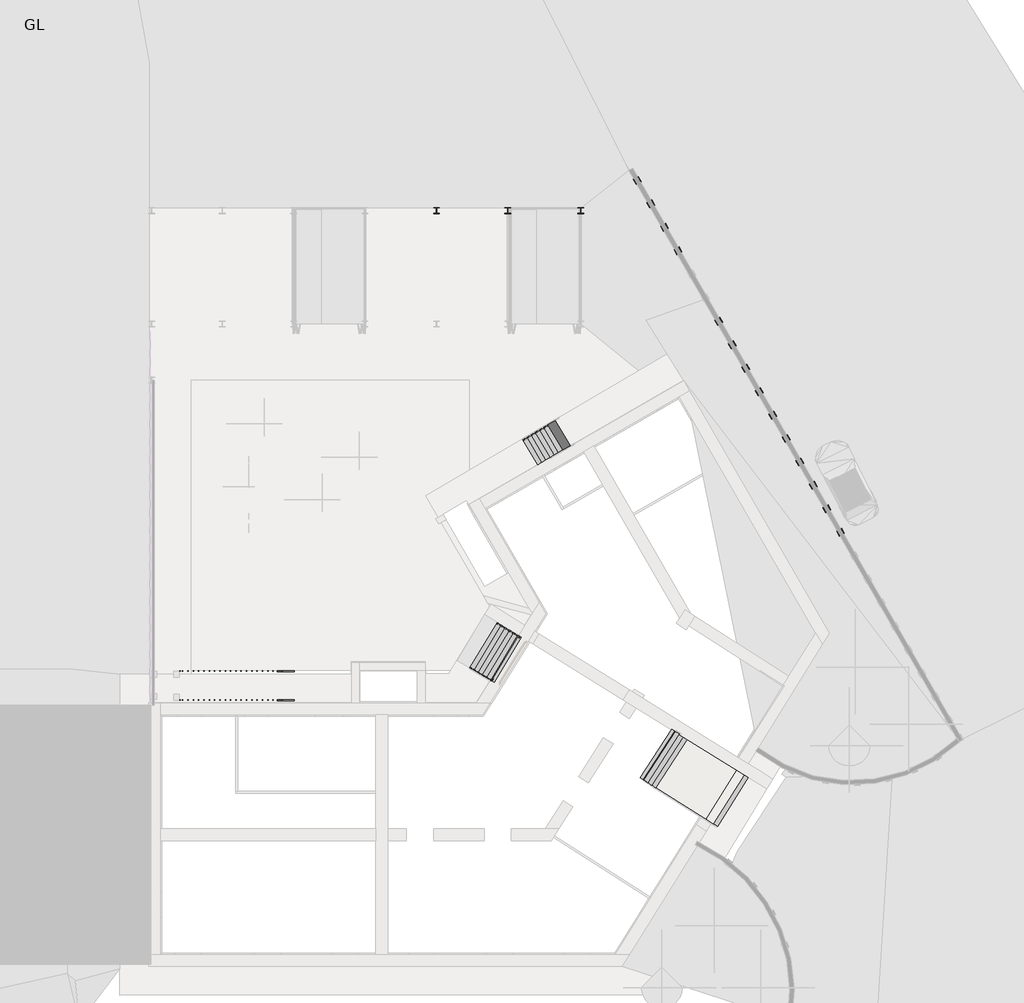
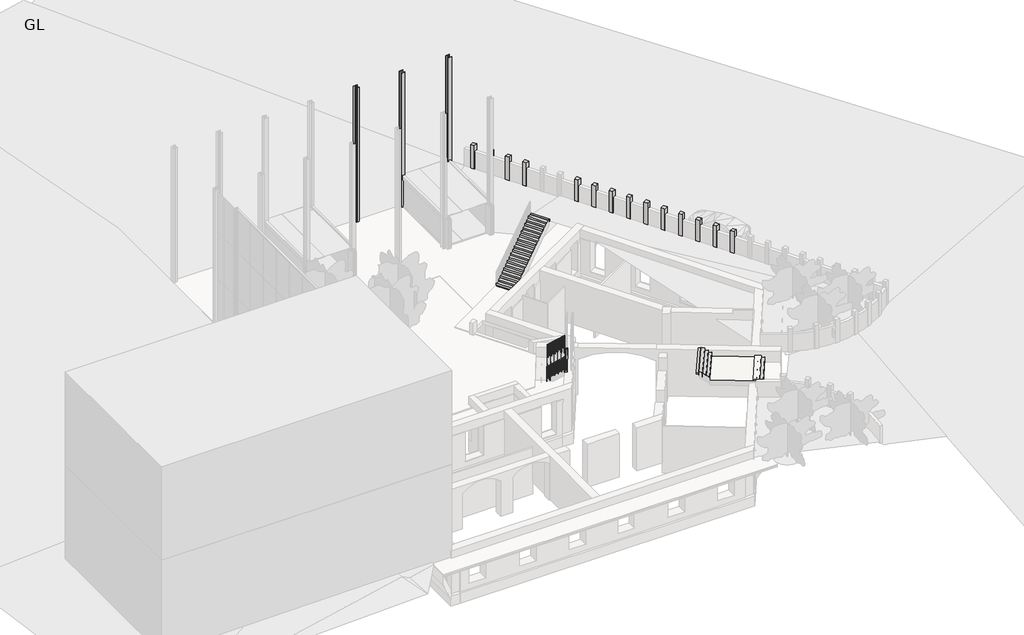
# One storey, part 5 of 6: 17 columns, 4 railings, 4 stair flights, 1 slab.
"""IFC4 building model written with IfcOpenShell, lengths in millimetres."""

from ifc_helpers import new_model, si_unit, frame, origin, origin_with_axes, place, context, project, spatial, polyline, outline, extrude, transform, mapped, element, save
from components import uc_universal_columns_column_uc305x305x97_f7e977a0, slab_75dce6ce, wood_steps_w_50mm_tread_10mm_nosing_13mm_riser_463dac38, wood_steps_w_50mm_tread_10mm_nosing_13mm_riser_c46edbeb, wood_steps_w_50mm_tread_10mm_nosing_13mm_riser_4d9a7b32, wood_steps_w_50mm_tread_10mm_nosing_13mm_riser_9b9480e7

model = new_model("IFC4")

# Units and contexts
model_context = context("Model", 3, world=origin())
ifc_project = project(units=[si_unit("LENGTHUNIT", "METRE", prefix="MILLI")], contexts=[model_context])

# Site, building, storey
site = spatial("IfcSite", under=ifc_project)
building = spatial("IfcBuilding", under=site)
storey = spatial("IfcBuildingStorey", under=building, Name="GL", Elevation=0.0)

# Columns
placement = place(None, origin())
element("IfcColumn", 1, ObjectType="M_Concrete-Square-Column : 300 x 300mm", at=placement, inside=storey, context=model_context, shape_type="SweptSolid", body=[
    extrude(outline(polyline([(13988.4315293, 33174.645581), (14138.3954047, 32914.8171066), (13878.5669304, 32764.8532312), (13728.6030549, 33024.6817055), (13988.4315293, 33174.645581)])), origin_with_axes(), (0.0, 0.0, 1.0), 2000.0),
])
element("IfcColumn", 2, ObjectType="M_Concrete-Square-Column : 300 x 300mm", at=placement, inside=storey, context=model_context, shape_type="SweptSolid", body=[
    extrude(outline(polyline([(13288.4315293, 34387.0811463), (13438.3954047, 34127.2526719), (13178.5669304, 33977.2887965), (13028.6030549, 34237.1172708), (13288.4315293, 34387.0811463)])), origin_with_axes(), (0.0, 0.0, 1.0), 2000.0),
])
element("IfcColumn", 3, ObjectType="M_Concrete-Square-Column : 300 x 300mm", at=placement, inside=storey, context=model_context, shape_type="SweptSolid", body=[
    extrude(outline(polyline([(12588.4315293, 35599.5167116), (12738.3954047, 35339.6882372), (12478.5669304, 35189.7243618), (12328.6030549, 35449.5528361), (12588.4315293, 35599.5167116)])), origin_with_axes(), (0.0, 0.0, 1.0), 2000.0),
])
element("IfcColumn", 4, ObjectType="M_Concrete-Square-Column : 300 x 300mm", at=placement, inside=storey, context=model_context, shape_type="SweptSolid", body=[
    extrude(outline(polyline([(11888.6001106, 36812.0495917), (12038.563986, 36552.2211174), (11778.7355117, 36402.257242), (11628.7716363, 36662.0857163), (11888.6001106, 36812.0495917)])), origin_with_axes(), (0.0, 0.0, 1.0), 2000.0),
])
element("IfcColumn", 5, ObjectType="M_Concrete-Square-Column : 300 x 300mm", at=placement, inside=storey, context=model_context, shape_type="SweptSolid", body=[
    extrude(outline(polyline([(18188.2629479, 25899.9348743), (18338.2268233, 25640.1064), (18078.398349, 25490.1425246), (17928.4344736, 25749.9709989), (18188.2629479, 25899.9348743)])), origin_with_axes(), (0.0, 0.0, 1.0), 2000.0),
])
element("IfcColumn", 6, ObjectType="M_Concrete-Square-Column : 300 x 300mm", at=placement, inside=storey, context=model_context, shape_type="SweptSolid", body=[
    extrude(outline(polyline([(17488.4315293, 27112.4677545), (17638.3954047, 26852.6392802), (17378.5669304, 26702.6754047), (17228.6030549, 26962.5038791), (17488.4315293, 27112.4677545)])), origin_with_axes(), (0.0, 0.0, 1.0), 2000.0),
])
element("IfcColumn", 7, ObjectType="M_Concrete-Square-Column : 300 x 300mm", at=placement, inside=storey, context=model_context, shape_type="SweptSolid", body=[
    extrude(outline(polyline([(16788.4315293, 28324.9033198), (16938.3954047, 28065.0748454), (16678.5669304, 27915.11097), (16528.6030549, 28174.9394444), (16788.4315293, 28324.9033198)])), origin_with_axes(), (0.0, 0.0, 1.0), 2000.0),
])
element("IfcColumn", 8, ObjectType="M_Concrete-Square-Column : 300 x 300mm", at=placement, inside=storey, context=model_context, shape_type="SweptSolid", body=[
    extrude(outline(polyline([(16088.4315293, 29537.3388851), (16238.3954047, 29277.5104107), (15978.5669304, 29127.5465353), (15828.6030549, 29387.3750096), (16088.4315293, 29537.3388851)])), origin_with_axes(), (0.0, 0.0, 1.0), 2000.0),
])
element("IfcColumn", 9, ObjectType="M_Concrete-Square-Column : 300 x 300mm", at=placement, inside=storey, context=model_context, shape_type="SweptSolid", body=[
    extrude(outline(polyline([(21686.5771342, 19836.7838991), (21836.5410096, 19576.9554247), (21576.7125353, 19426.9915493), (21426.7486599, 19686.8200236), (21686.5771342, 19836.7838991)])), origin_with_axes(), (0.0, 0.0, 1.0), 2000.0),
])
element("IfcColumn", 10, ObjectType="M_Concrete-Square-Column : 300 x 300mm", at=placement, inside=storey, context=model_context, shape_type="SweptSolid", body=[
    extrude(outline(polyline([(20986.7457156, 21049.3167792), (21136.709591, 20789.4883049), (20876.8811166, 20639.5244295), (20726.9172412, 20899.3529038), (20986.7457156, 21049.3167792)])), origin_with_axes(), (0.0, 0.0, 1.0), 2000.0),
])
element("IfcColumn", 11, ObjectType="M_Concrete-Square-Column : 300 x 300mm", at=placement, inside=storey, context=model_context, shape_type="SweptSolid", body=[
    extrude(outline(polyline([(20286.7457156, 22261.7523445), (20436.709591, 22001.9238702), (20176.8811166, 21851.9599948), (20026.9172412, 22111.7884691), (20286.7457156, 22261.7523445)])), origin_with_axes(), (0.0, 0.0, 1.0), 2000.0),
])
element("IfcColumn", 12, ObjectType="M_Concrete-Square-Column : 300 x 300mm", at=placement, inside=storey, context=model_context, shape_type="SweptSolid", body=[
    extrude(outline(polyline([(19586.7457156, 23474.1879098), (19736.709591, 23214.3594355), (19476.8811166, 23064.3955601), (19326.9172412, 23324.2240344), (19586.7457156, 23474.1879098)])), origin_with_axes(), (0.0, 0.0, 1.0), 2000.0),
])
element("IfcColumn", 13, ObjectType="M_Concrete-Square-Column : 300 x 300mm", at=placement, inside=storey, context=model_context, shape_type="SweptSolid", body=[
    extrude(outline(polyline([(18886.9142969, 24686.72079), (19036.8781723, 24426.8923157), (18777.049698, 24276.9284403), (18627.0858226, 24536.7569146), (18886.9142969, 24686.72079)])), origin_with_axes(), (0.0, 0.0, 1.0), 2000.0),
])
element("IfcColumn", 14, ObjectType="M_Concrete-Square-Column : 300 x 300mm", at=placement, inside=storey, context=model_context, shape_type="SweptSolid", body=[
    extrude(outline(polyline([(22386.9142969, 18624.5429635), (22536.8781723, 18364.7144892), (22277.049698, 18214.7506138), (22127.0858226, 18474.5790881), (22386.9142969, 18624.5429635)])), origin_with_axes(), (0.0, 0.0, 1.0), 2000.0),
])
uc_universal_columns_column_uc305x305x97_shape = uc_universal_columns_column_uc305x305x97_f7e977a0(model_context)
element("IfcColumn", 15, ObjectType="UC-Universal Columns-Column : UC305x305x97", at=placement, inside=storey, context=model_context, shape_type="MappedRepresentation", body=[
    mapped(uc_universal_columns_column_uc305x305x97_shape, transform((1448.4037035, 35051.9809735, 0.0), x_axis=(1.0, 0.0, 0.0), y_axis=(0.0, 1.0, 0.0), z_axis=(0.0, 0.0, 1.0))),
])
element("IfcColumn", 16, ObjectType="UC-Universal Columns-Column : UC305x305x97", at=placement, inside=storey, context=model_context, shape_type="MappedRepresentation", body=[
    mapped(uc_universal_columns_column_uc305x305x97_shape, transform((5139.3879332, 35051.9809735, 0.0), x_axis=(1.0, 0.0, 0.0), y_axis=(0.0, 1.0, 0.0), z_axis=(0.0, 0.0, 1.0))),
])
element("IfcColumn", 17, ObjectType="UC-Universal Columns-Column : UC305x305x97", at=placement, inside=storey, context=model_context, shape_type="MappedRepresentation", body=[
    mapped(uc_universal_columns_column_uc305x305x97_shape, transform((8901.9425222, 35051.9809735, 0.0), x_axis=(1.0, 0.0, 0.0), y_axis=(0.0, 1.0, 0.0), z_axis=(0.0, 0.0, 1.0))),
])

# Railings
element("IfcRailing", 18, ObjectType="1100mm", at=placement, inside=storey, context=model_context, shape_type="SweptSolid", body=[
    extrude(outline(polyline([(33.3333334, -50.0), (0.0, 0.0), (1502.3130314, 0.0), (1535.6463648, -50.0), (33.3333334, -50.0)])), frame((3181.7355207, 11411.1099524, 1206.5741454), z_axis=(0.5150380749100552, 0.8571673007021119, 0.0), x_axis=(0.7132063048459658, -0.42853758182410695, 0.5547001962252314)), (0.0, 0.0, 1.0), 50.0),
    extrude(outline(polyline([(108.3333334, 0.0), (1264.9074788, 0.0), (1264.9074788, -25.0000001), (91.6666667, -25.0000001), (108.3333334, 0.0)])), frame((4195.3450749, 10816.6548057, 2098.2408121), z_axis=(0.5150380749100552, 0.8571673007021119, 0.0), x_axis=(0.0, 0.0, -1.0)), (0.0, 0.0, 1.0), 25.0),
    extrude(outline(polyline([(108.3333333, 0.0), (1181.5741454, 0.0), (1181.5741454, -25.0), (91.6666666, -25.0), (108.3333333, 0.0)])), frame((4088.1991624, 10881.034565, 2014.9074787), z_axis=(0.5150380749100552, 0.8571673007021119, 0.0), x_axis=(0.0, 0.0, -1.0)), (0.0, 0.0, 1.0), 25.0),
    extrude(outline(polyline([(108.3333333, 0.0), (1264.9074787, 0.0), (1264.9074787, -25.0), (91.6666667, -25.0), (108.3333333, 0.0)])), frame((3981.0532498, 10945.4143244, 1931.5741454), z_axis=(0.5150380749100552, 0.8571673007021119, 0.0), x_axis=(0.0, 0.0, -1.0)), (0.0, 0.0, 1.0), 25.0),
    extrude(outline(polyline([(108.3333334, 0.0), (1181.5741454, 0.0), (1181.5741454, -24.9999999), (91.6666667, -24.9999999), (108.3333334, 0.0)])), frame((3873.9073372, 11009.7940837, 1848.2408121), z_axis=(0.5150380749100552, 0.8571673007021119, 0.0), x_axis=(0.0, 0.0, -1.0)), (0.0, 0.0, 1.0), 25.0),
    extrude(outline(polyline([(108.3333333, 0.0), (1264.9074787, 0.0), (1264.9074787, -25.0), (91.6666666, -25.0), (108.3333333, 0.0)])), frame((3766.7614246, 11074.1738431, 1764.9074787), z_axis=(0.5150380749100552, 0.8571673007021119, 0.0), x_axis=(0.0, 0.0, -1.0)), (0.0, 0.0, 1.0), 25.0),
    extrude(outline(polyline([(108.3333333, 0.0), (1181.5741454, 0.0), (1181.5741454, -25.0), (91.6666667, -25.0), (108.3333333, 0.0)])), frame((3659.615512, 11138.5536025, 1681.5741454), z_axis=(0.5150380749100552, 0.8571673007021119, 0.0), x_axis=(0.0, 0.0, -1.0)), (0.0, 0.0, 1.0), 25.0),
    extrude(outline(polyline([(108.3333334, 0.0), (1264.9074788, 0.0), (1264.9074788, -24.9999999), (91.6666667, -24.9999999), (108.3333334, 0.0)])), frame((3552.4695994, 11202.9333618, 1598.2408121), z_axis=(0.5150380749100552, 0.8571673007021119, 0.0), x_axis=(0.0, 0.0, -1.0)), (0.0, 0.0, 1.0), 25.0),
    extrude(outline(polyline([(108.3333333, 0.0), (1181.5741454, 0.0), (1181.5741454, -25.0), (91.6666666, -25.0), (108.3333333, 0.0)])), frame((3445.3236868, 11267.3131212, 1514.9074787), z_axis=(0.5150380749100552, 0.8571673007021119, 0.0), x_axis=(0.0, 0.0, -1.0)), (0.0, 0.0, 1.0), 25.0),
    extrude(outline(polyline([(108.3333333, 0.0), (1264.9074787, 0.0), (1264.9074787, -25.0000001), (91.6666667, -25.0000001), (108.3333333, 0.0)])), frame((3338.1777742, 11331.6928806, 1431.5741454), z_axis=(0.5150380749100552, 0.8571673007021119, 0.0), x_axis=(0.0, 0.0, -1.0)), (0.0, 0.0, 1.0), 25.0),
    extrude(outline(polyline([(108.3333334, 0.0), (1181.5741454, 0.0), (1181.5741454, -24.9999999), (91.6666667, -24.9999999), (108.3333334, 0.0)])), frame((3231.0318617, 11396.0726399, 1348.2408121), z_axis=(0.5150380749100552, 0.8571673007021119, 0.0), x_axis=(0.0, 0.0, -1.0)), (0.0, 0.0, 1.0), 25.0),
    extrude(outline(polyline([(108.3333333, 0.0), (1298.2408121, 0.0), (1298.2408121, -25.0), (91.6666667, -25.0), (108.3333333, 0.0)])), frame((4238.20344, 10790.9029019, 2131.5741454), z_axis=(0.5150380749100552, 0.8571673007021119, 0.0), x_axis=(0.0, 0.0, -1.0)), (0.0, 0.0, 1.0), 25.0),
    extrude(outline(polyline([(108.3333333, 0.0), (1148.240812, 0.0), (1148.240812, -25.0), (91.6666666, -25.0), (108.3333333, 0.0)])), frame((3188.1734966, 11421.8245437, 1314.9074787), z_axis=(0.5150380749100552, 0.8571673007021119, 0.0), x_axis=(0.0, 0.0, -1.0)), (0.0, 0.0, 1.0), 25.0),
])
element("IfcRailing", 19, ObjectType="1100mm", at=placement, inside=storey, context=model_context, shape_type="SweptSolid", body=[
    extrude(outline(polyline([(33.3333334, -50.0), (0.0, 0.0), (1502.3130314, 0.0), (1535.6463648, -50.0), (33.3333334, -50.0)])), frame((4554.6213153, 13695.975612, 1206.5741454), z_axis=(0.5150380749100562, 0.8571673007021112, 0.0), x_axis=(0.7132063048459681, -0.4285375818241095, 0.5547001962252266)), (0.0, 0.0, 1.0), 50.0),
    extrude(outline(polyline([(1264.9074788, 25.0), (1264.9074788, 0.0), (91.6666667, 0.0), (108.3333334, 25.0), (1264.9074788, 25.0)])), frame((5589.660052, 13088.6445133, 2098.2408121), z_axis=(0.5150380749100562, 0.8571673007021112, 0.0), x_axis=(0.0, 0.0, -1.0)), (0.0, 0.0, 1.0), 25.0),
    extrude(outline(polyline([(1181.5741454, 25.0000001), (1181.5741454, 0.0), (91.6666666, 0.0), (108.3333333, 25.0000001), (1181.5741454, 25.0000001)])), frame((5482.5141395, 13153.0242727, 2014.9074787), z_axis=(0.5150380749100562, 0.8571673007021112, 0.0), x_axis=(0.0, 0.0, -1.0)), (0.0, 0.0, 1.0), 25.0),
    extrude(outline(polyline([(1264.9074787, 25.0000001), (1264.9074787, 0.0), (91.6666667, 0.0), (108.3333333, 25.0000001), (1264.9074787, 25.0000001)])), frame((5375.3682269, 13217.404032, 1931.5741454), z_axis=(0.5150380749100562, 0.8571673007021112, 0.0), x_axis=(0.0, 0.0, -1.0)), (0.0, 0.0, 1.0), 25.0),
    extrude(outline(polyline([(1181.5741454, 25.0), (1181.5741454, 0.0), (91.6666667, 0.0), (108.3333334, 25.0), (1181.5741454, 25.0)])), frame((5268.2223143, 13281.7837914, 1848.2408121), z_axis=(0.5150380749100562, 0.8571673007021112, 0.0), x_axis=(0.0, 0.0, -1.0)), (0.0, 0.0, 1.0), 25.0),
    extrude(outline(polyline([(1264.9074787, 24.9999999), (1264.9074787, 0.0), (91.6666666, 0.0), (108.3333333, 24.9999999), (1264.9074787, 24.9999999)])), frame((5161.0764017, 13346.1635508, 1764.9074787), z_axis=(0.5150380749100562, 0.8571673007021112, 0.0), x_axis=(0.0, 0.0, -1.0)), (0.0, 0.0, 1.0), 25.0),
    extrude(outline(polyline([(1181.5741454, 25.0), (1181.5741454, 0.0), (91.6666667, 0.0), (108.3333333, 25.0), (1181.5741454, 25.0)])), frame((5053.9304891, 13410.5433101, 1681.5741454), z_axis=(0.5150380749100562, 0.8571673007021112, 0.0), x_axis=(0.0, 0.0, -1.0)), (0.0, 0.0, 1.0), 25.0),
    extrude(outline(polyline([(1264.9074788, 25.0), (1264.9074788, 0.0), (91.6666667, 0.0), (108.3333334, 25.0), (1264.9074788, 25.0)])), frame((4946.7845765, 13474.9230695, 1598.2408121), z_axis=(0.5150380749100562, 0.8571673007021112, 0.0), x_axis=(0.0, 0.0, -1.0)), (0.0, 0.0, 1.0), 25.0),
    extrude(outline(polyline([(1181.5741454, 24.9999999), (1181.5741454, 0.0), (91.6666666, 0.0), (108.3333333, 24.9999999), (1181.5741454, 24.9999999)])), frame((4839.6386639, 13539.3028289, 1514.9074787), z_axis=(0.5150380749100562, 0.8571673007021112, 0.0), x_axis=(0.0, 0.0, -1.0)), (0.0, 0.0, 1.0), 25.0),
    extrude(outline(polyline([(1264.9074787, 25.0), (1264.9074787, 0.0), (91.6666667, 0.0), (108.3333333, 25.0), (1264.9074787, 25.0)])), frame((4732.4927513, 13603.6825882, 1431.5741454), z_axis=(0.5150380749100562, 0.8571673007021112, 0.0), x_axis=(0.0, 0.0, -1.0)), (0.0, 0.0, 1.0), 25.0),
    extrude(outline(polyline([(1181.5741454, 25.0000001), (1181.5741454, 0.0), (91.6666667, 0.0), (108.3333334, 25.0000001), (1181.5741454, 25.0000001)])), frame((4625.3468388, 13668.0623476, 1348.2408121), z_axis=(0.5150380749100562, 0.8571673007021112, 0.0), x_axis=(0.0, 0.0, -1.0)), (0.0, 0.0, 1.0), 25.0),
    extrude(outline(polyline([(1298.2408121, 24.9999999), (1298.2408121, 0.0), (91.6666667, 0.0), (108.3333333, 24.9999999), (1298.2408121, 24.9999999)])), frame((5632.5184171, 13062.8926096, 2131.5741454), z_axis=(0.5150380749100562, 0.8571673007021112, 0.0), x_axis=(0.0, 0.0, -1.0)), (0.0, 0.0, 1.0), 25.0),
    extrude(outline(polyline([(1148.240812, 25.0), (1148.240812, 0.0), (91.6666666, 0.0), (108.3333333, 25.0), (1148.240812, 25.0)])), frame((4582.4884737, 13693.8142513, 1314.9074787), z_axis=(0.5150380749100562, 0.8571673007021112, 0.0), x_axis=(0.0, 0.0, -1.0)), (0.0, 0.0, 1.0), 25.0),
])
element("IfcRailing", 20, ObjectType="1100mm", at=placement, inside=storey, context=model_context, shape_type="SweptSolid", body=[
    extrude(outline(polyline([(1049.2960469, -5893.2131888), (1100.0, -5893.2131888), (2100.0, -11831.6874983), (2049.2960469, -11831.6874983), (1049.2960469, -5893.2131888)])), frame((0.0, 11222.200745, 0.0), z_axis=(0.0, 1.0, 0.0), x_axis=(0.0, 0.0, 1.0)), (0.0, 0.0, 1.0), 50.0),
    extrude(outline(polyline([(2019.8138059, -11655.7131888), (2023.8410269, -11680.7131888), (972.4720019, -11680.7131888), (972.4720019, -11655.7131888), (2019.8138059, -11655.7131888)])), frame((0.0, 11234.700745, 0.0), z_axis=(0.0, 1.0, 0.0), x_axis=(0.0, 0.0, 1.0)), (0.0, 0.0, 1.0), 25.0),
    extrude(outline(polyline([(1973.5056154, -11380.7131888), (1977.5328364, -11405.7131888), (926.1638113, -11405.7131888), (926.1638113, -11380.7131888), (1973.5056154, -11380.7131888)])), frame((0.0, 11234.700745, 0.0), z_axis=(0.0, 1.0, 0.0), x_axis=(0.0, 0.0, 1.0)), (0.0, 0.0, 1.0), 25.0),
    extrude(outline(polyline([(1927.1974248, -11105.7131888), (1931.2246458, -11130.7131888), (879.8556208, -11130.7131888), (879.8556208, -11105.7131888), (1927.1974248, -11105.7131888)])), frame((0.0, 11234.700745, 0.0), z_axis=(0.0, 1.0, 0.0), x_axis=(0.0, 0.0, 1.0)), (0.0, 0.0, 1.0), 25.0),
    extrude(outline(polyline([(1880.8892342, -10830.7131888), (1884.9164552, -10855.7131888), (833.5474302, -10855.7131888), (833.5474302, -10830.7131888), (1880.8892342, -10830.7131888)])), frame((0.0, 11234.700745, 0.0), z_axis=(0.0, 1.0, 0.0), x_axis=(0.0, 0.0, 1.0)), (0.0, 0.0, 1.0), 25.0),
    extrude(outline(polyline([(1834.5810437, -10555.7131888), (1838.6082647, -10580.7131888), (787.2392396, -10580.7131888), (787.2392396, -10555.7131888), (1834.5810437, -10555.7131888)])), frame((0.0, 11234.700745, 0.0), z_axis=(0.0, 1.0, 0.0), x_axis=(0.0, 0.0, 1.0)), (0.0, 0.0, 1.0), 25.0),
    extrude(outline(polyline([(1788.2728531, -10280.7131888), (1792.3000741, -10305.7131888), (740.9310491, -10305.7131888), (740.9310491, -10280.7131888), (1788.2728531, -10280.7131888)])), frame((0.0, 11234.700745, 0.0), z_axis=(0.0, 1.0, 0.0), x_axis=(0.0, 0.0, 1.0)), (0.0, 0.0, 1.0), 25.0),
    extrude(outline(polyline([(1741.9646625, -10005.7131888), (1745.9918835, -10030.7131888), (694.6228585, -10030.7131888), (694.6228585, -10005.7131888), (1741.9646625, -10005.7131888)])), frame((0.0, 11234.700745, 0.0), z_axis=(0.0, 1.0, 0.0), x_axis=(0.0, 0.0, 1.0)), (0.0, 0.0, 1.0), 25.0),
    extrude(outline(polyline([(1695.656472, -9730.7131888), (1699.683693, -9755.7131888), (648.3146679, -9755.7131888), (648.3146679, -9730.7131888), (1695.656472, -9730.7131888)])), frame((0.0, 11234.700745, 0.0), z_axis=(0.0, 1.0, 0.0), x_axis=(0.0, 0.0, 1.0)), (0.0, 0.0, 1.0), 25.0),
    extrude(outline(polyline([(1649.3482814, -9455.7131888), (1653.3755024, -9480.7131888), (602.0064774, -9480.7131888), (602.0064774, -9455.7131888), (1649.3482814, -9455.7131888)])), frame((0.0, 11234.700745, 0.0), z_axis=(0.0, 1.0, 0.0), x_axis=(0.0, 0.0, 1.0)), (0.0, 0.0, 1.0), 25.0),
    extrude(outline(polyline([(1603.0400908, -9180.7131888), (1607.0673118, -9205.7131888), (555.6982868, -9205.7131888), (555.6982868, -9180.7131888), (1603.0400908, -9180.7131888)])), frame((0.0, 11234.700745, 0.0), z_axis=(0.0, 1.0, 0.0), x_axis=(0.0, 0.0, 1.0)), (0.0, 0.0, 1.0), 25.0),
    extrude(outline(polyline([(1556.7319003, -8905.7131888), (1560.7591213, -8930.7131888), (509.3900962, -8930.7131888), (509.3900962, -8905.7131888), (1556.7319003, -8905.7131888)])), frame((0.0, 11234.700745, 0.0), z_axis=(0.0, 1.0, 0.0), x_axis=(0.0, 0.0, 1.0)), (0.0, 0.0, 1.0), 25.0),
    extrude(outline(polyline([(1510.4237097, -8630.7131888), (1514.4509307, -8655.7131888), (463.0819057, -8655.7131888), (463.0819057, -8630.7131888), (1510.4237097, -8630.7131888)])), frame((0.0, 11234.700745, 0.0), z_axis=(0.0, 1.0, 0.0), x_axis=(0.0, 0.0, 1.0)), (0.0, 0.0, 1.0), 25.0),
    extrude(outline(polyline([(1464.1155191, -8355.7131888), (1468.1427401, -8380.7131888), (416.7737151, -8380.7131888), (416.7737151, -8355.7131888), (1464.1155191, -8355.7131888)])), frame((0.0, 11234.700745, 0.0), z_axis=(0.0, 1.0, 0.0), x_axis=(0.0, 0.0, 1.0)), (0.0, 0.0, 1.0), 25.0),
    extrude(outline(polyline([(1417.8073286, -8080.7131888), (1421.8345496, -8105.7131888), (370.4655245, -8105.7131888), (370.4655245, -8080.7131888), (1417.8073286, -8080.7131888)])), frame((0.0, 11234.700745, 0.0), z_axis=(0.0, 1.0, 0.0), x_axis=(0.0, 0.0, 1.0)), (0.0, 0.0, 1.0), 25.0),
    extrude(outline(polyline([(1371.499138, -7805.7131888), (1375.526359, -7830.7131888), (324.157334, -7830.7131888), (324.157334, -7805.7131888), (1371.499138, -7805.7131888)])), frame((0.0, 11234.700745, 0.0), z_axis=(0.0, 1.0, 0.0), x_axis=(0.0, 0.0, 1.0)), (0.0, 0.0, 1.0), 25.0),
    extrude(outline(polyline([(1325.1909474, -7530.7131888), (1329.2181684, -7555.7131888), (277.8491434, -7555.7131888), (277.8491434, -7530.7131888), (1325.1909474, -7530.7131888)])), frame((0.0, 11234.700745, 0.0), z_axis=(0.0, 1.0, 0.0), x_axis=(0.0, 0.0, 1.0)), (0.0, 0.0, 1.0), 25.0),
    extrude(outline(polyline([(1278.8827569, -7255.7131888), (1282.9099779, -7280.7131888), (231.5409528, -7280.7131888), (231.5409528, -7255.7131888), (1278.8827569, -7255.7131888)])), frame((0.0, 11234.700745, 0.0), z_axis=(0.0, 1.0, 0.0), x_axis=(0.0, 0.0, 1.0)), (0.0, 0.0, 1.0), 25.0),
    extrude(outline(polyline([(1232.5745663, -6980.7131888), (1236.6017873, -7005.7131888), (185.2327623, -7005.7131888), (185.2327623, -6980.7131888), (1232.5745663, -6980.7131888)])), frame((0.0, 11234.700745, 0.0), z_axis=(0.0, 1.0, 0.0), x_axis=(0.0, 0.0, 1.0)), (0.0, 0.0, 1.0), 25.0),
    extrude(outline(polyline([(1186.2663757, -6705.7131888), (1190.2935967, -6730.7131888), (138.9245717, -6730.7131888), (138.9245717, -6705.7131888), (1186.2663757, -6705.7131888)])), frame((0.0, 11234.700745, 0.0), z_axis=(0.0, 1.0, 0.0), x_axis=(0.0, 0.0, 1.0)), (0.0, 0.0, 1.0), 25.0),
    extrude(outline(polyline([(1139.9581852, -6430.7131888), (1143.9854062, -6455.7131888), (92.6163811, -6455.7131888), (92.6163811, -6430.7131888), (1139.9581852, -6430.7131888)])), frame((0.0, 11234.700745, 0.0), z_axis=(0.0, 1.0, 0.0), x_axis=(0.0, 0.0, 1.0)), (0.0, 0.0, 1.0), 25.0),
    extrude(outline(polyline([(1093.6499946, -6155.7131888), (1097.6772156, -6180.7131888), (46.3081906, -6180.7131888), (46.3081906, -6155.7131888), (1093.6499946, -6155.7131888)])), frame((0.0, 11234.700745, 0.0), z_axis=(0.0, 1.0, 0.0), x_axis=(0.0, 0.0, 1.0)), (0.0, 0.0, 1.0), 25.0),
    extrude(outline(polyline([(2045.2368863, -11806.6874983), (2049.2641073, -11831.6874983), (997.8950822, -11831.6874983), (997.8950822, -11806.6874983), (2045.2368863, -11806.6874983)])), frame((0.0, 11234.700745, 0.0), z_axis=(0.0, 1.0, 0.0), x_axis=(0.0, 0.0, 1.0)), (0.0, 0.0, 1.0), 25.0),
    extrude(outline(polyline([(1049.4467218, -5893.2131888), (1053.4739428, -5918.2131888), (2.1049178, -5918.2131888), (2.1049178, -5893.2131888), (1049.4467218, -5893.2131888)])), frame((0.0, 11234.700745, 0.0), z_axis=(0.0, 1.0, 0.0), x_axis=(0.0, 0.0, 1.0)), (0.0, 0.0, 1.0), 25.0),
])
element("IfcRailing", 21, ObjectType="1100mm", at=placement, inside=storey, context=model_context, shape_type="SweptSolid", body=[
    extrude(outline(polyline([(1049.2960469, -5893.2131888), (1100.0, -5893.2131888), (2100.0, -11831.6874983), (2049.2960469, -11831.6874983), (1049.2960469, -5893.2131888)])), frame((0.0, 9722.200745, 0.0), z_axis=(0.0, 1.0, 0.0), x_axis=(0.0, 0.0, 1.0)), (0.0, 0.0, 1.0), 50.0),
    extrude(outline(polyline([(972.4720019, -11655.7131888), (2019.8138059, -11655.7131888), (2023.8410269, -11680.7131888), (972.4720019, -11680.7131888), (972.4720019, -11655.7131888)])), frame((0.0, 9734.700745, 0.0), z_axis=(0.0, 1.0, 0.0), x_axis=(0.0, 0.0, 1.0)), (0.0, 0.0, 1.0), 25.0),
    extrude(outline(polyline([(926.1638113, -11380.7131888), (1973.5056154, -11380.7131888), (1977.5328364, -11405.7131888), (926.1638113, -11405.7131888), (926.1638113, -11380.7131888)])), frame((0.0, 9734.700745, 0.0), z_axis=(0.0, 1.0, 0.0), x_axis=(0.0, 0.0, 1.0)), (0.0, 0.0, 1.0), 25.0),
    extrude(outline(polyline([(879.8556208, -11105.7131888), (1927.1974248, -11105.7131888), (1931.2246458, -11130.7131888), (879.8556208, -11130.7131888), (879.8556208, -11105.7131888)])), frame((0.0, 9734.700745, 0.0), z_axis=(0.0, 1.0, 0.0), x_axis=(0.0, 0.0, 1.0)), (0.0, 0.0, 1.0), 25.0),
    extrude(outline(polyline([(833.5474302, -10830.7131888), (1880.8892342, -10830.7131888), (1884.9164552, -10855.7131888), (833.5474302, -10855.7131888), (833.5474302, -10830.7131888)])), frame((0.0, 9734.700745, 0.0), z_axis=(0.0, 1.0, 0.0), x_axis=(0.0, 0.0, 1.0)), (0.0, 0.0, 1.0), 25.0),
    extrude(outline(polyline([(787.2392396, -10555.7131888), (1834.5810437, -10555.7131888), (1838.6082647, -10580.7131888), (787.2392396, -10580.7131888), (787.2392396, -10555.7131888)])), frame((0.0, 9734.700745, 0.0), z_axis=(0.0, 1.0, 0.0), x_axis=(0.0, 0.0, 1.0)), (0.0, 0.0, 1.0), 25.0),
    extrude(outline(polyline([(740.9310491, -10280.7131888), (1788.2728531, -10280.7131888), (1792.3000741, -10305.7131888), (740.9310491, -10305.7131888), (740.9310491, -10280.7131888)])), frame((0.0, 9734.700745, 0.0), z_axis=(0.0, 1.0, 0.0), x_axis=(0.0, 0.0, 1.0)), (0.0, 0.0, 1.0), 25.0),
    extrude(outline(polyline([(694.6228585, -10005.7131888), (1741.9646625, -10005.7131888), (1745.9918835, -10030.7131888), (694.6228585, -10030.7131888), (694.6228585, -10005.7131888)])), frame((0.0, 9734.700745, 0.0), z_axis=(0.0, 1.0, 0.0), x_axis=(0.0, 0.0, 1.0)), (0.0, 0.0, 1.0), 25.0),
    extrude(outline(polyline([(648.3146679, -9730.7131888), (1695.656472, -9730.7131888), (1699.683693, -9755.7131888), (648.3146679, -9755.7131888), (648.3146679, -9730.7131888)])), frame((0.0, 9734.700745, 0.0), z_axis=(0.0, 1.0, 0.0), x_axis=(0.0, 0.0, 1.0)), (0.0, 0.0, 1.0), 25.0),
    extrude(outline(polyline([(602.0064774, -9455.7131888), (1649.3482814, -9455.7131888), (1653.3755024, -9480.7131888), (602.0064774, -9480.7131888), (602.0064774, -9455.7131888)])), frame((0.0, 9734.700745, 0.0), z_axis=(0.0, 1.0, 0.0), x_axis=(0.0, 0.0, 1.0)), (0.0, 0.0, 1.0), 25.0),
    extrude(outline(polyline([(555.6982868, -9180.7131888), (1603.0400908, -9180.7131888), (1607.0673118, -9205.7131888), (555.6982868, -9205.7131888), (555.6982868, -9180.7131888)])), frame((0.0, 9734.700745, 0.0), z_axis=(0.0, 1.0, 0.0), x_axis=(0.0, 0.0, 1.0)), (0.0, 0.0, 1.0), 25.0),
    extrude(outline(polyline([(509.3900962, -8905.7131888), (1556.7319003, -8905.7131888), (1560.7591213, -8930.7131888), (509.3900962, -8930.7131888), (509.3900962, -8905.7131888)])), frame((0.0, 9734.700745, 0.0), z_axis=(0.0, 1.0, 0.0), x_axis=(0.0, 0.0, 1.0)), (0.0, 0.0, 1.0), 25.0),
    extrude(outline(polyline([(463.0819057, -8630.7131888), (1510.4237097, -8630.7131888), (1514.4509307, -8655.7131888), (463.0819057, -8655.7131888), (463.0819057, -8630.7131888)])), frame((0.0, 9734.700745, 0.0), z_axis=(0.0, 1.0, 0.0), x_axis=(0.0, 0.0, 1.0)), (0.0, 0.0, 1.0), 25.0),
    extrude(outline(polyline([(416.7737151, -8355.7131888), (1464.1155191, -8355.7131888), (1468.1427401, -8380.7131888), (416.7737151, -8380.7131888), (416.7737151, -8355.7131888)])), frame((0.0, 9734.700745, 0.0), z_axis=(0.0, 1.0, 0.0), x_axis=(0.0, 0.0, 1.0)), (0.0, 0.0, 1.0), 25.0),
    extrude(outline(polyline([(370.4655245, -8080.7131888), (1417.8073286, -8080.7131888), (1421.8345496, -8105.7131888), (370.4655245, -8105.7131888), (370.4655245, -8080.7131888)])), frame((0.0, 9734.700745, 0.0), z_axis=(0.0, 1.0, 0.0), x_axis=(0.0, 0.0, 1.0)), (0.0, 0.0, 1.0), 25.0),
    extrude(outline(polyline([(324.157334, -7805.7131888), (1371.499138, -7805.7131888), (1375.526359, -7830.7131888), (324.157334, -7830.7131888), (324.157334, -7805.7131888)])), frame((0.0, 9734.700745, 0.0), z_axis=(0.0, 1.0, 0.0), x_axis=(0.0, 0.0, 1.0)), (0.0, 0.0, 1.0), 25.0),
    extrude(outline(polyline([(277.8491434, -7530.7131888), (1325.1909474, -7530.7131888), (1329.2181684, -7555.7131888), (277.8491434, -7555.7131888), (277.8491434, -7530.7131888)])), frame((0.0, 9734.700745, 0.0), z_axis=(0.0, 1.0, 0.0), x_axis=(0.0, 0.0, 1.0)), (0.0, 0.0, 1.0), 25.0),
    extrude(outline(polyline([(231.5409528, -7255.7131888), (1278.8827569, -7255.7131888), (1282.9099779, -7280.7131888), (231.5409528, -7280.7131888), (231.5409528, -7255.7131888)])), frame((0.0, 9734.700745, 0.0), z_axis=(0.0, 1.0, 0.0), x_axis=(0.0, 0.0, 1.0)), (0.0, 0.0, 1.0), 25.0),
    extrude(outline(polyline([(185.2327623, -6980.7131888), (1232.5745663, -6980.7131888), (1236.6017873, -7005.7131888), (185.2327623, -7005.7131888), (185.2327623, -6980.7131888)])), frame((0.0, 9734.700745, 0.0), z_axis=(0.0, 1.0, 0.0), x_axis=(0.0, 0.0, 1.0)), (0.0, 0.0, 1.0), 25.0),
    extrude(outline(polyline([(138.9245717, -6705.7131888), (1186.2663757, -6705.7131888), (1190.2935967, -6730.7131888), (138.9245717, -6730.7131888), (138.9245717, -6705.7131888)])), frame((0.0, 9734.700745, 0.0), z_axis=(0.0, 1.0, 0.0), x_axis=(0.0, 0.0, 1.0)), (0.0, 0.0, 1.0), 25.0),
    extrude(outline(polyline([(92.6163811, -6430.7131888), (1139.9581852, -6430.7131888), (1143.9854062, -6455.7131888), (92.6163811, -6455.7131888), (92.6163811, -6430.7131888)])), frame((0.0, 9734.700745, 0.0), z_axis=(0.0, 1.0, 0.0), x_axis=(0.0, 0.0, 1.0)), (0.0, 0.0, 1.0), 25.0),
    extrude(outline(polyline([(46.3081906, -6155.7131888), (1093.6499946, -6155.7131888), (1097.6772156, -6180.7131888), (46.3081906, -6180.7131888), (46.3081906, -6155.7131888)])), frame((0.0, 9734.700745, 0.0), z_axis=(0.0, 1.0, 0.0), x_axis=(0.0, 0.0, 1.0)), (0.0, 0.0, 1.0), 25.0),
    extrude(outline(polyline([(997.8950822, -11806.6874983), (2045.2368863, -11806.6874983), (2049.2641073, -11831.6874983), (997.8950822, -11831.6874983), (997.8950822, -11806.6874983)])), frame((0.0, 9734.700745, 0.0), z_axis=(0.0, 1.0, 0.0), x_axis=(0.0, 0.0, 1.0)), (0.0, 0.0, 1.0), 25.0),
    extrude(outline(polyline([(2.1049178, -5893.2131888), (1049.4467218, -5893.2131888), (1053.4739428, -5918.2131888), (2.1049178, -5918.2131888), (2.1049178, -5893.2131888)])), frame((0.0, 9734.700745, 0.0), z_axis=(0.0, 1.0, 0.0), x_axis=(0.0, 0.0, 1.0)), (0.0, 0.0, 1.0), 25.0),
])

# Slab
slab_shape = slab_75dce6ce(model_context)
element("IfcSlab", 22, ObjectType="Non-Monolitic_Landing", at=placement, inside=storey, context=model_context, shape_type="MappedRepresentation", body=[
    mapped(slab_shape, transform((0.0, 0.0, 0.0), x_axis=(1.0, 0.0, 0.0), y_axis=(0.0, 1.0, 0.0), z_axis=(0.0, 0.0, 1.0))),
])

# Stair flights
wood_steps_w_50mm_tread_10mm_nosing_13mm_riser_shape = wood_steps_w_50mm_tread_10mm_nosing_13mm_riser_463dac38(model_context)
element("IfcStairFlight", 23, ObjectType="Wood_Steps_w-50mm_Tread-10mm_Nosing-13mm_Riser", at=placement, inside=storey, context=model_context, shape_type="MappedRepresentation", body=[
    mapped(wood_steps_w_50mm_tread_10mm_nosing_13mm_riser_shape, transform((0.0, 0.0, 0.0), x_axis=(1.0, 0.0, 0.0), y_axis=(0.0, 1.0, 0.0), z_axis=(0.0, 0.0, 1.0))),
])
wood_steps_w_50mm_tread_10mm_nosing_13mm_riser_2_shape = wood_steps_w_50mm_tread_10mm_nosing_13mm_riser_c46edbeb(model_context)
element("IfcStairFlight", 24, ObjectType="Wood_Steps_w-50mm_Tread-10mm_Nosing-13mm_Riser", at=placement, inside=storey, context=model_context, shape_type="MappedRepresentation", body=[
    mapped(wood_steps_w_50mm_tread_10mm_nosing_13mm_riser_2_shape, transform((0.0, 0.0, 0.0), x_axis=(1.0, 0.0, 0.0), y_axis=(0.0, 1.0, 0.0), z_axis=(0.0, 0.0, 1.0))),
])
wood_steps_w_50mm_tread_10mm_nosing_13mm_riser_3_shape = wood_steps_w_50mm_tread_10mm_nosing_13mm_riser_4d9a7b32(model_context)
element("IfcStairFlight", 25, ObjectType="Wood_Steps_w-50mm_Tread-10mm_Nosing-13mm_Riser", at=placement, inside=storey, context=model_context, shape_type="MappedRepresentation", body=[
    mapped(wood_steps_w_50mm_tread_10mm_nosing_13mm_riser_3_shape, transform((0.0, 0.0, 0.0), x_axis=(1.0, 0.0, 0.0), y_axis=(0.0, 1.0, 0.0), z_axis=(0.0, 0.0, 1.0))),
])
wood_steps_w_50mm_tread_10mm_nosing_13mm_riser_4_shape = wood_steps_w_50mm_tread_10mm_nosing_13mm_riser_9b9480e7(model_context)
element("IfcStairFlight", 26, ObjectType="Wood_Steps_w-50mm_Tread-10mm_Nosing-13mm_Riser", at=placement, inside=storey, context=model_context, shape_type="MappedRepresentation", body=[
    mapped(wood_steps_w_50mm_tread_10mm_nosing_13mm_riser_4_shape, transform((0.0, 0.0, 0.0), x_axis=(1.0, 0.0, 0.0), y_axis=(0.0, 1.0, 0.0), z_axis=(0.0, 0.0, 1.0))),
])

save(model, "model.ifc")
